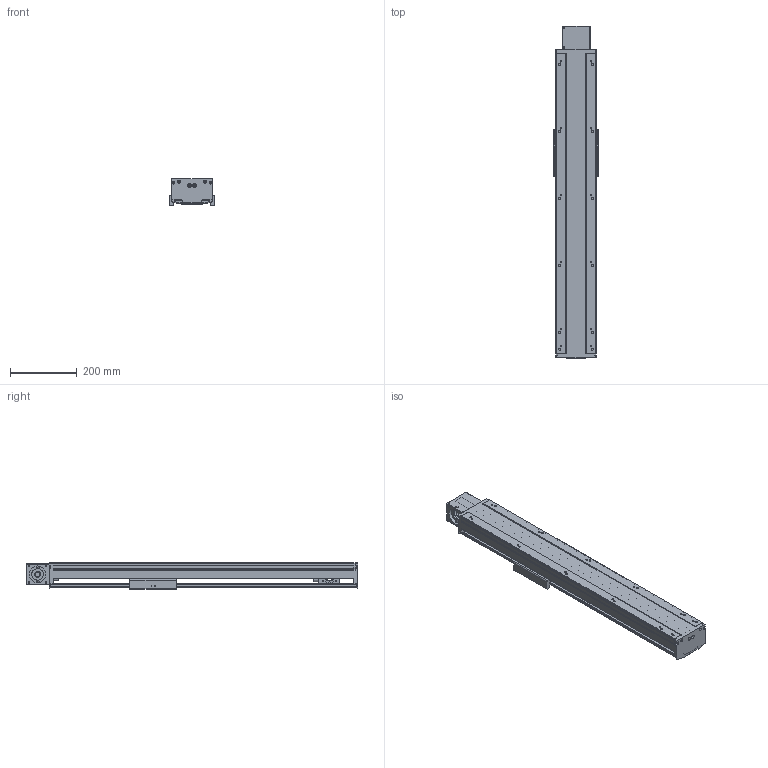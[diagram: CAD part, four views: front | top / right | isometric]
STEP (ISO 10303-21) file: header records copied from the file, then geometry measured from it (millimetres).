
FILE_DESCRIPTION(/* description */ (''),/* implementation_level */ '2;1');
FILE_NAME(/* name */ 'TKB120-FL-600_asm1_stp.stp',/* time_stamp */ '2016-06-28T15:19:55+08:00',/* author */ (''),/* organization */ (''),/* preprocessor_version */ 'ST-DEVELOPER v15',/* originating_system */ 'SIEMENS PLM Software NX 8.5',/* authorisation */ '');
FILE_SCHEMA (('AUTOMOTIVE_DESIGN { 1 0 10303 214 3 1 1 1 }'));
Length unit declared in the file: millimetre
Products named in the file (3): 200-2; 200-1; TKB120-FL-600_asm1_stp
Assembly tree (2 placements, depth 2):
  TKB120-FL-600_asm1_stp
    200-1
    200-2
Bounding box: 134 x 991 x 80 mm (x, y, z)
Volume: 2753356.7 mm3; surface area: 1071160 mm2
Topology: 2 solids, 3 shells, 768 faces, 2185 edges, 1429 vertices
Faces by surface type: cylinder 373, plane 353, cone 42
Full cylindrical faces by diameter (mm): 2.5 x4, 3.3 x20, 4.2 x4, 4.5 x24, 5 x22, 5.5 x12, 6.6 x6, 6.8 x4, 7.5 x4, 8 x12, 9 x6, 9.75 x24, 10.5 x4, 11 x2, 12 x4, 14 x2, 17 x2, 35 x2, 40 x3, 50 x2, 52 x1
Entity records: 24777 total; most frequent: CARTESIAN_POINT 5205, DIRECTION 4132, ORIENTED_EDGE 3770, EDGE_CURVE 1885, AXIS2_PLACEMENT_3D 1564, VERTEX_POINT 1377, EDGE_LOOP 1132, LINE 1004
